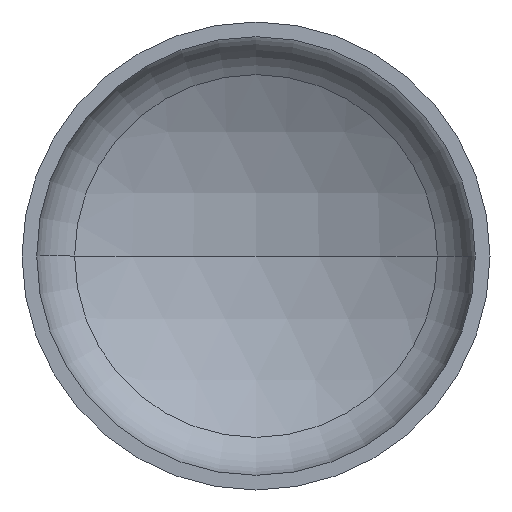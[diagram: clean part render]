
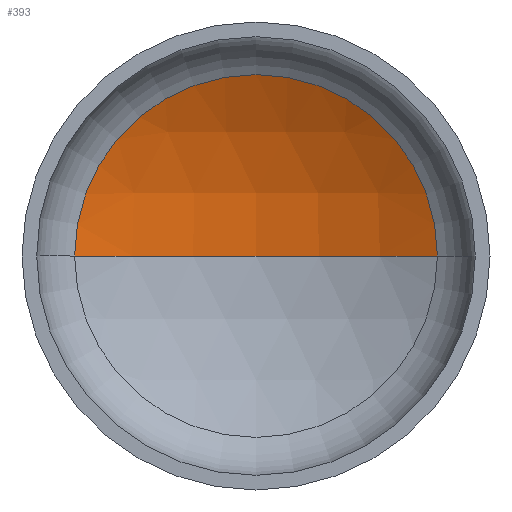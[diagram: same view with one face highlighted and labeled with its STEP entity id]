
A CAD part, front view. The second image highlights one B-rep face of the part: STEP entity #393.
In plain terms, the highlighted spherical face has radius 560 mm.
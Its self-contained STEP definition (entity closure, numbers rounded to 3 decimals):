
#2 = CARTESIAN_POINT ( 'NONE',  ( 0., -323.67, 0. ) ) ;
#11 = CARTESIAN_POINT ( 'NONE',  ( 271.289, 166.23, 0. ) ) ;
#22 = CARTESIAN_POINT ( 'NONE',  ( 0., -323.67, 0. ) ) ;
#38 = AXIS2_PLACEMENT_3D ( 'NONE', #22, #375, #315 ) ;
#41 = AXIS2_PLACEMENT_3D ( 'NONE', #143, #144, #146 ) ;
#42 = DIRECTION ( 'NONE',  ( -1., 0., 0. ) ) ;
#43 = AXIS2_PLACEMENT_3D ( 'NONE', #2, #105, #365 ) ;
#88 = EDGE_CURVE ( 'NONE', #110, #222, #107, .T. ) ;
#93 = EDGE_CURVE ( 'NONE', #398, #110, #95, .T. ) ;
#95 = CIRCLE ( 'NONE', #43, 560. ) ;
#101 = EDGE_CURVE ( 'NONE', #398, #222, #174, .T. ) ;
#105 = DIRECTION ( 'NONE',  ( 0., 0., -1. ) ) ;
#107 = CIRCLE ( 'NONE', #41, 271.289 ) ;
#108 = ORIENTED_EDGE ( 'NONE', *, *, #101, .F. ) ;
#110 = VERTEX_POINT ( 'NONE', #11 ) ;
#123 = CARTESIAN_POINT ( 'NONE',  ( 0., 236.33, 0. ) ) ;
#133 = CARTESIAN_POINT ( 'NONE',  ( -271.289, 166.23, 0. ) ) ;
#136 = ORIENTED_EDGE ( 'NONE', *, *, #88, .T. ) ;
#143 = CARTESIAN_POINT ( 'NONE',  ( 0., 166.23, 0. ) ) ;
#144 = DIRECTION ( 'NONE',  ( 0., -1., 0. ) ) ;
#146 = DIRECTION ( 'NONE',  ( 1., 0., 0. ) ) ;
#157 = EDGE_LOOP ( 'NONE', ( #108, #329, #136 ) ) ;
#174 = CIRCLE ( 'NONE', #38, 560. ) ;
#181 = CARTESIAN_POINT ( 'NONE',  ( 0., -323.67, 0. ) ) ;
#190 = SPHERICAL_SURFACE ( 'NONE', #290, 560. ) ;
#222 = VERTEX_POINT ( 'NONE', #133 ) ;
#268 = DIRECTION ( 'NONE',  ( 0., 0., -1. ) ) ;
#290 = AXIS2_PLACEMENT_3D ( 'NONE', #181, #268, #42 ) ;
#315 = DIRECTION ( 'NONE',  ( 1., 0., 0. ) ) ;
#329 = ORIENTED_EDGE ( 'NONE', *, *, #93, .T. ) ;
#365 = DIRECTION ( 'NONE',  ( -1., 0., 0. ) ) ;
#375 = DIRECTION ( 'NONE',  ( 0., 0., 1. ) ) ;
#393 = ADVANCED_FACE ( 'NONE', ( #401 ), #190, .F. ) ;
#398 = VERTEX_POINT ( 'NONE', #123 ) ;
#401 = FACE_OUTER_BOUND ( 'NONE', #157, .T. ) ;
